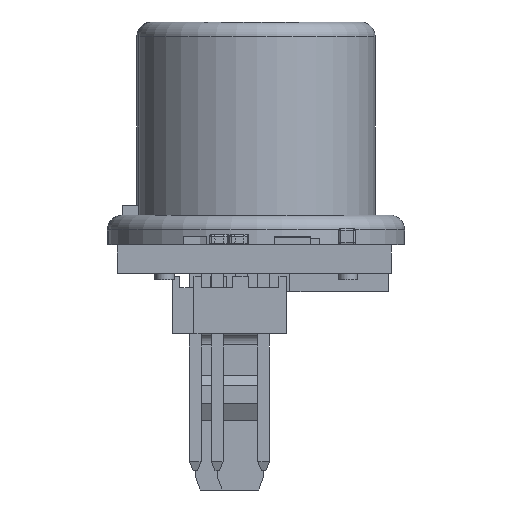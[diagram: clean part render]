
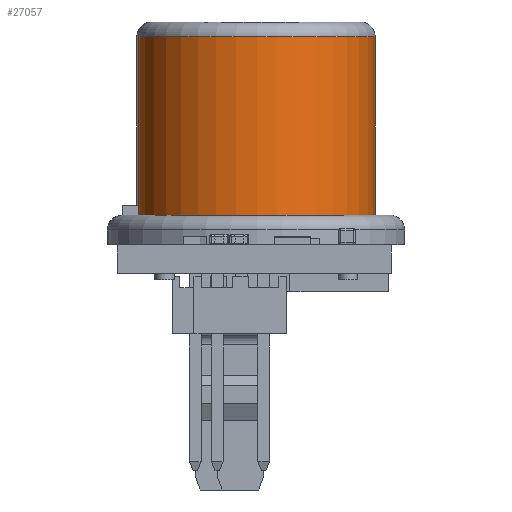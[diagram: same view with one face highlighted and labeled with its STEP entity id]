
A CAD part, front view. The second image highlights one B-rep face of the part: STEP entity #27057.
In plain terms, the highlighted cylindrical face has radius 6.48 mm (diameter 12.96 mm), a full revolution.
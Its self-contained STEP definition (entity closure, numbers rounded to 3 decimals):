
#3645=FACE_OUTER_BOUND('',#5359,.T.);
#5359=EDGE_LOOP('',(#19582,#19583,#19584,#19585));
#6932=LINE('',#38471,#9514);
#9514=VECTOR('',#31684,6.48);
#12163=CIRCLE('',#29056,6.48);
#12164=CIRCLE('',#29058,6.48);
#12849=VERTEX_POINT('',#38466);
#12850=VERTEX_POINT('',#38470);
#15416=EDGE_CURVE('',#12849,#12849,#12163,.T.);
#15417=EDGE_CURVE('',#12849,#12850,#6932,.T.);
#15418=EDGE_CURVE('',#12850,#12850,#12164,.T.);
#19582=ORIENTED_EDGE('',*,*,#15416,.F.);
#19583=ORIENTED_EDGE('',*,*,#15417,.T.);
#19584=ORIENTED_EDGE('',*,*,#15418,.F.);
#19585=ORIENTED_EDGE('',*,*,#15417,.F.);
#26657=CYLINDRICAL_SURFACE('',#29057,6.48);
#27057=ADVANCED_FACE('',(#3645),#26657,.T.);
#29056=AXIS2_PLACEMENT_3D('',#38468,#31680,#31681);
#29057=AXIS2_PLACEMENT_3D('',#38469,#31682,#31683);
#29058=AXIS2_PLACEMENT_3D('',#38472,#31685,#31686);
#31680=DIRECTION('center_axis',(0.,0.,
1.));
#31681=DIRECTION('ref_axis',(0.,1.,0.));
#31682=DIRECTION('center_axis',(0.,0.,
1.));
#31683=DIRECTION('ref_axis',(0.,1.,0.));
#31684=DIRECTION('',(0.,0.,-1.));
#31685=DIRECTION('center_axis',(0.,0.,
-1.));
#31686=DIRECTION('ref_axis',(0.,1.,0.));
#38466=CARTESIAN_POINT('',(0.,-6.534,11.38));
#38468=CARTESIAN_POINT('Origin',(0.,-0.054,
11.38));
#38469=CARTESIAN_POINT('Origin',(0.,-0.054,
1.62));
#38470=CARTESIAN_POINT('',(0.,-6.534,1.62));
#38471=CARTESIAN_POINT('',(0.,-6.534,1.62));
#38472=CARTESIAN_POINT('Origin',(0.,-0.054,
1.62));
